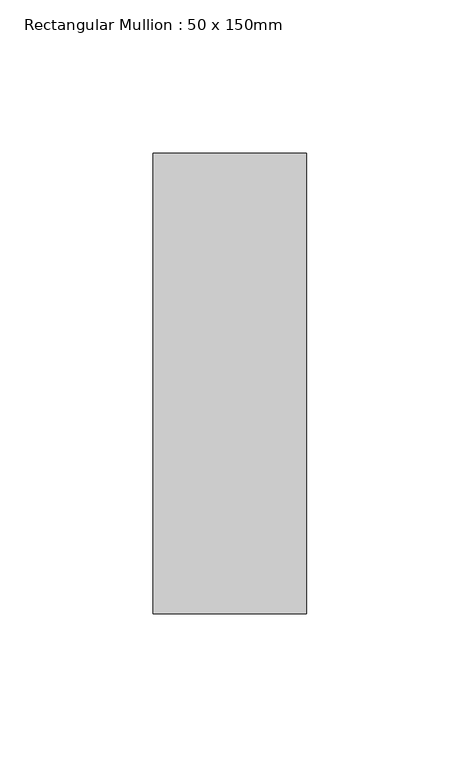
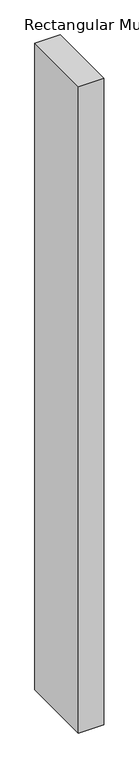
"""IFC4 building model written with IfcOpenShell, lengths in millimetres: member geometry, Rectangular Mullion : 50 x 150mm."""

from ifc_helpers import new_model, si_unit, frame, origin, place, context, project, spatial, polyline, outline, extrude, source, transform, mapped, element, save


def rectangular_mullion_50_x_150mm_8dc91bbf(model_context):
    return source(origin(), model_context, "Body", "SweptSolid", [
        extrude(outline(polyline([(0.0, 75.0), (0.0, -75.0), (-50.0, -75.0), (-50.0, 75.0), (0.0, 75.0)])), frame((0.0, 0.0, -1358.3333333), z_axis=(0.0, 0.0, 1.0), x_axis=(1.0, 0.0, 0.0)), (0.0, 0.0, 1.0), 1358.3333333),
    ])


if __name__ == "__main__":
    model = new_model("IFC4")
    model_context = context("Model", 3, world=origin())
    ifc_project = project(units=[si_unit("LENGTHUNIT", "METRE", prefix="MILLI")], contexts=[model_context])
    site = spatial("IfcSite", under=ifc_project)
    building = spatial("IfcBuilding", under=site)
    placement = place(None, origin())
    rectangular_mullion_50_x_150mm_shape = rectangular_mullion_50_x_150mm_8dc91bbf(model_context)
    element("IfcMember", 1, ObjectType="Rectangular Mullion : 50 x 150mm", at=placement, inside=building, context=model_context, shape_type="MappedRepresentation", body=[
        mapped(rectangular_mullion_50_x_150mm_shape, transform((0.0, 0.0, 0.0), x_axis=(1.0, 0.0, 0.0), y_axis=(0.0, 1.0, 0.0), z_axis=(0.0, 0.0, 1.0))),
    ])
    save(model, "model.ifc")
